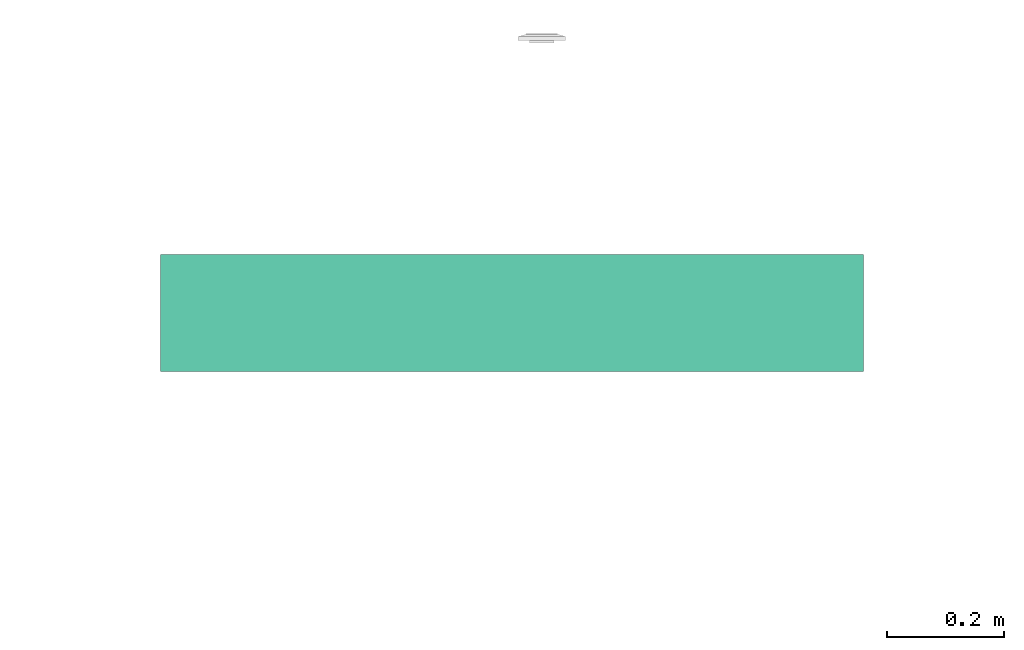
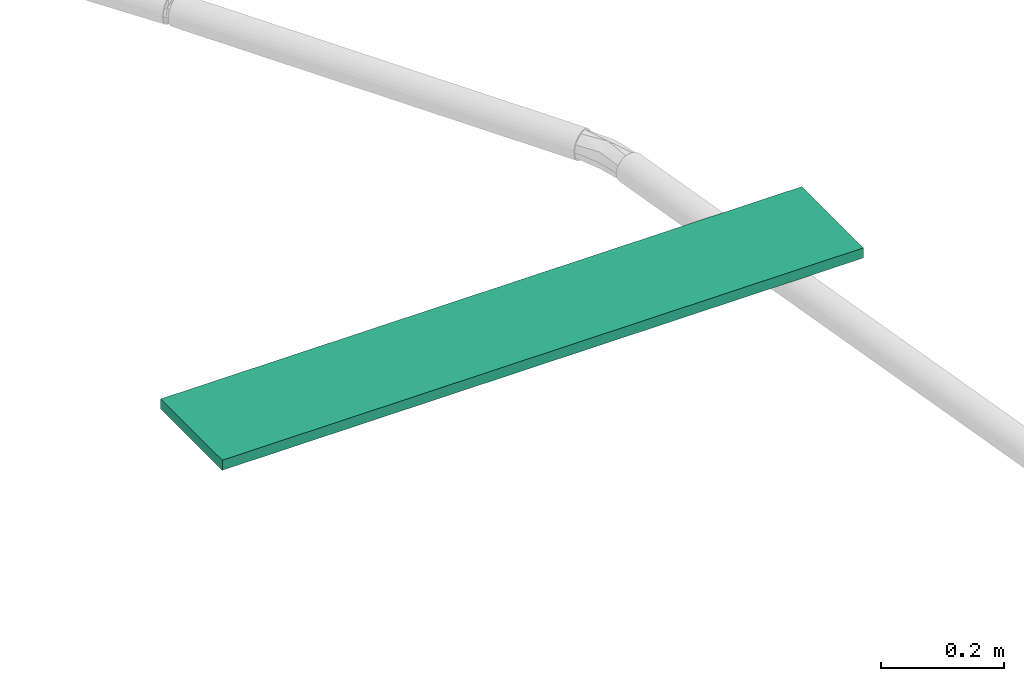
# One storey, part 7 of 153: 1 flow terminal.
"""IFC2X3 building model written with IfcOpenShell, lengths in metres."""

import ifcopenshell
import ifcopenshell.guid

model = None  # the IFC model being written
_history = None  # IfcOwnerHistory: only IFC2X3 demands one
_inside = {}  # id of a spatial element -> (the spatial element, [elements in it])
_under = {}  # id of a project, library or spatial element -> (it, [spatial elements below it])
_declared = {}  # id of a project -> (the project, [libraries it declares])
_typed = {}  # id of a type object -> (the type object, [elements of that type])
_made_of = {}  # id of a material, layer set ... -> (it, [elements and type objects made of it])


def new_model(schema):
    """Start an empty IFC model of exactly this schema.

    Asked for "IFC4X3", IfcOpenShell would pick the latest addendum, in which some entities
    have other attributes; the version numbers below select the first issue.
    IFC2X3 requires an IfcOwnerHistory on every rooted entity: one is made here for all.
    """
    global model, _history
    if schema == "IFC4X3":
        model = ifcopenshell.file(schema_version=(4, 3, 0, 0))
    else:
        model = ifcopenshell.file(schema=schema)
    _inside.clear()
    _under.clear()
    _declared.clear()
    _typed.clear()
    _made_of.clear()
    _history = None
    if model.schema == "IFC2X3":
        org = make("IfcOrganization", Name="unknown")
        user = make(
            "IfcPersonAndOrganization",
            ThePerson=make("IfcPerson", FamilyName="unknown"),
            TheOrganization=org,
        )
        app = make(
            "IfcApplication",
            ApplicationDeveloper=org,
            Version="unknown",
            ApplicationFullName="unknown",
            ApplicationIdentifier="unknown",
        )
        _history = make(
            "IfcOwnerHistory",
            OwningUser=user,
            OwningApplication=app,
            ChangeAction="ADDED",
            CreationDate=0,
        )
    return model


def make(cls, **values):
    """One entity of the class cls with the attributes given. An attribute that is None is left unset."""
    return model.create_entity(
        cls, **{name: value for name, value in values.items() if value is not None}
    )


def entity(cls, *values):
    """Any entity or typed value of the class cls, its attributes in the order of the schema. None: left unset."""
    e = model.create_entity(cls)
    for i, value in enumerate(values):
        if value is not None:
            e[i] = value
    return e


def rooted(cls, **values):
    """An entity with a GlobalId (a new one), such as an element, a storey or a relation."""
    return make(cls, GlobalId=ifcopenshell.guid.new(), OwnerHistory=_history, **values)


def si_unit(unit_type, name, prefix=None):
    """IfcSIUnit, for example si_unit("LENGTHUNIT", "METRE", prefix="MILLI")."""
    return make("IfcSIUnit", UnitType=unit_type, Prefix=prefix, Name=name)


def converted_unit(unit_type, name, factor, base, dimensions=None, offset=None):
    """IfcConversionBasedUnit, such as the inch: factor (a typed value) times the base unit."""
    return make(
        "IfcConversionBasedUnit"
        if offset is None
        else "IfcConversionBasedUnitWithOffset",
        ConversionOffset=offset,
        Dimensions=None
        if dimensions is None
        else entity("IfcDimensionalExponents", *dimensions),
        UnitType=unit_type,
        Name=name,
        ConversionFactor=make(
            "IfcMeasureWithUnit", ValueComponent=factor, UnitComponent=base
        ),
    )


def derived_unit(unit_type, elements):
    """IfcDerivedUnit: a product of units, each with its exponent."""
    return make(
        "IfcDerivedUnit",
        Elements=[
            make("IfcDerivedUnitElement", Unit=unit, Exponent=power)
            for unit, power in elements
        ],
        UnitType=unit_type,
    )


def assignment(units):
    """IfcUnitAssignment: the units of a project."""
    return None if units is None else make("IfcUnitAssignment", Units=units)


def point(xyz):
    """IfcCartesianPoint."""
    return None if xyz is None else make("IfcCartesianPoint", Coordinates=xyz)


def direction(xyz):
    """IfcDirection."""
    return None if xyz is None else make("IfcDirection", DirectionRatios=xyz)


def frame(location, z_axis=None, x_axis=None):
    """IfcAxis2Placement3D, a coordinate frame: its origin and axes. An axis left out is left unset."""
    return make(
        "IfcAxis2Placement3D",
        Location=point(location),
        Axis=direction(z_axis),
        RefDirection=direction(x_axis),
    )


def frame_2d(location, x_axis=None):
    """IfcAxis2Placement2D, a coordinate frame in the plane: its origin and x axis."""
    return make(
        "IfcAxis2Placement2D", Location=point(location), RefDirection=direction(x_axis)
    )


def origin():
    """The frame at (0, 0, 0) with its axes left unset."""
    return frame((0.0, 0.0, 0.0))


def origin_2d_with_axis():
    """The frame at (0, 0) in the plane with the x axis (1, 0) written out."""
    return frame_2d((0.0, 0.0), x_axis=(1.0, 0.0))


def place(relative_to, where):
    """IfcLocalPlacement: puts the frame where relative to a parent placement (None: the world)."""
    return make(
        "IfcLocalPlacement", PlacementRelTo=relative_to, RelativePlacement=where
    )


def context(
    kind, dimensions, precision=None, world=None, true_north=None, identifier=None
):
    """IfcGeometricRepresentationContext, for example the 3D "Model" context."""
    return make(
        "IfcGeometricRepresentationContext",
        ContextIdentifier=identifier,
        ContextType=kind,
        CoordinateSpaceDimension=dimensions,
        Precision=precision,
        WorldCoordinateSystem=world,
        TrueNorth=true_north,
    )


def subcontext(parent, identifier, kind, view, scale=None):
    """IfcGeometricRepresentationSubContext, for example "Body" below "Model"."""
    return make(
        "IfcGeometricRepresentationSubContext",
        ContextIdentifier=identifier,
        ContextType=kind,
        ParentContext=parent,
        TargetScale=scale,
        TargetView=view,
    )


def project(units=None, contexts=None):
    """IfcProject with its units and contexts."""
    return rooted(
        "IfcProject",
        Name="project",
        RepresentationContexts=contexts,
        UnitsInContext=assignment(units),
    )


def spatial(cls, under=None, at=None, **own):
    """A site, building, storey or space (cls), placed at a placement, below another one or the project."""
    s = rooted(cls, ObjectPlacement=at, **own)
    if under is not None:
        _under.setdefault(under.id(), (under, []))[1].append(s)
    return s


def profile(cls, at=None, kind="AREA", **sizes):
    """A parametric profile (cls). Its sizes go by their IFC names, for example OverallWidth=200.0."""
    return make(cls, ProfileType=kind, Position=at, **sizes)


def rectangle(**sizes):
    """IfcRectangleProfileDef."""
    return profile("IfcRectangleProfileDef", **sizes)


def extrude(swept, where, along, depth):
    """IfcExtrudedAreaSolid: the profile swept, set in the frame where, extruded along a direction by depth."""
    return make(
        "IfcExtrudedAreaSolid",
        SweptArea=swept,
        Position=where,
        ExtrudedDirection=direction(along),
        Depth=depth,
    )


def shape(context_of_items, identifier, shape_type, items):
    """IfcShapeRepresentation: the items that make up one representation, for example the "Body"."""
    return make(
        "IfcShapeRepresentation",
        ContextOfItems=context_of_items,
        RepresentationIdentifier=identifier,
        RepresentationType=shape_type,
        Items=items,
    )


def source(mapping_origin, context_of_items, identifier, shape_type, items):
    """IfcRepresentationMap: a shape defined once, which mapped items show again and again."""
    return make(
        "IfcRepresentationMap",
        MappingOrigin=mapping_origin,
        MappedRepresentation=shape(context_of_items, identifier, shape_type, items),
    )


def transform(
    local_origin,
    x_axis=None,
    y_axis=None,
    z_axis=None,
    scale=None,
    scale2=None,
    scale3=None,
    uniform=True,
):
    """IfcCartesianTransformationOperator3D, or its non-uniform kind. x_axis, y_axis, z_axis: its Axis1, 2, 3."""
    if uniform:
        return make(
            "IfcCartesianTransformationOperator3D",
            Axis1=direction(x_axis),
            Axis2=direction(y_axis),
            LocalOrigin=point(local_origin),
            Scale=scale,
            Axis3=direction(z_axis),
        )
    return make(
        "IfcCartesianTransformationOperator3DnonUniform",
        Axis1=direction(x_axis),
        Axis2=direction(y_axis),
        LocalOrigin=point(local_origin),
        Scale=scale,
        Axis3=direction(z_axis),
        Scale2=scale2,
        Scale3=scale3,
    )


def mapped(mapping_source, mapping_target):
    """IfcMappedItem: shows the shape of a source again, moved by a transform."""
    return make(
        "IfcMappedItem", MappingSource=mapping_source, MappingTarget=mapping_target
    )


def made_of(thing, what):
    """Note that an element or type object is made of a material, layer set ...; save() writes the relation."""
    if what is not None:
        _made_of.setdefault(what.id(), (what, []))[1].append(thing)
    return thing


def type_object(cls, material=None, **own):
    """A type object (cls), such as IfcWallType, which elements share."""
    return made_of(rooted(cls, **own), material)


def type_shapes(of_type, sources):
    """Give a type object the sources (RepresentationMaps) that its elements show as mapped items."""
    of_type.RepresentationMaps = sources


def element(
    cls,
    number,
    at=None,
    inside=None,
    cuts=None,
    type_object=None,
    material=None,
    context=None,
    identifier="Body",
    shape_type=None,
    held_by="IfcProductDefinitionShape",
    body=None,
    shapes=None,
    **own,
):
    """One element of the class cls, such as IfcWall. Its Tag is "e" and its number.

    at: its placement. inside: the storey or other place that contains it. cuts: it is an
    opening in that element (IfcRelVoidsElement). A single representation is given by context,
    identifier, shape_type and body (its items); several are given by shapes. held_by: the class
    of the entity that holds the representations. save() writes the other relations.
    """
    e = rooted(cls, Tag="e%d" % number, ObjectPlacement=at, **own)
    if body is not None:
        shapes = [shape(context, identifier, shape_type, body)]
    if shapes is not None:
        e.Representation = make(held_by, Representations=shapes)
    if inside is not None:
        _inside.setdefault(inside.id(), (inside, []))[1].append(e)
    if cuts is not None:
        rooted(
            "IfcRelVoidsElement", RelatingBuildingElement=cuts, RelatedOpeningElement=e
        )
    if type_object is not None:
        _typed.setdefault(type_object.id(), (type_object, []))[1].append(e)
    return made_of(e, material)


def aggregate(whole, parts):
    """IfcRelAggregates: a whole, such as a stair, and the parts it consists of."""
    return rooted("IfcRelAggregates", RelatingObject=whole, RelatedObjects=parts)


def save(model, path):
    """Write the relations noted so far, then the file.

    IfcRelAggregates (storeys below a building ...), IfcRelContainedInSpatialStructure (elements
    in a storey), IfcRelDefinesByType, IfcRelAssociatesMaterial and IfcRelDeclares: one each for
    every whole, place, type object, material and project.
    """
    for whole, parts in _under.values():
        aggregate(whole, parts)
    for where, things in _inside.values():
        rooted(
            "IfcRelContainedInSpatialStructure",
            RelatedElements=things,
            RelatingStructure=where,
        )
    for kind, things in _typed.values():
        rooted("IfcRelDefinesByType", RelatedObjects=things, RelatingType=kind)
    for what, things in _made_of.values():
        rooted("IfcRelAssociatesMaterial", RelatedObjects=things, RelatingMaterial=what)
    for by, libraries in _declared.values():
        rooted("IfcRelDeclares", RelatingContext=by, RelatedDefinitions=libraries)
    model.write(path)


model = new_model("IFC2X3")

# Units and contexts
model_context = context("Model", 3, precision=1e-05, world=origin(), true_north=direction((6.12303176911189e-17, 1.0)))
body_context = subcontext(model_context, "Body", "Model", "MODEL_VIEW")
ifc_project = project(units=[si_unit("LENGTHUNIT", "METRE"), si_unit("AREAUNIT", "SQUARE_METRE"), si_unit("VOLUMEUNIT", "CUBIC_METRE"), converted_unit("PLANEANGLEUNIT", "DEGREE", entity("IfcRatioMeasure", 0.0174532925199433), si_unit("PLANEANGLEUNIT", "RADIAN"), dimensions=[0, 0, 0, 0, 0, 0, 0]), si_unit("MASSUNIT", "GRAM", prefix="KILO"), derived_unit("MASSDENSITYUNIT", [(si_unit("MASSUNIT", "GRAM", prefix="KILO"), 1), (si_unit("LENGTHUNIT", "METRE"), -3)]), si_unit("TIMEUNIT", "SECOND"), si_unit("FREQUENCYUNIT", "HERTZ"), si_unit("THERMODYNAMICTEMPERATUREUNIT", "DEGREE_CELSIUS"), derived_unit("THERMALTRANSMITTANCEUNIT", [(si_unit("MASSUNIT", "GRAM", prefix="KILO"), 1), (si_unit("THERMODYNAMICTEMPERATUREUNIT", "KELVIN"), -1), (si_unit("TIMEUNIT", "SECOND"), -3)]), derived_unit("VOLUMETRICFLOWRATEUNIT", [(si_unit("LENGTHUNIT", "METRE"), 3), (si_unit("TIMEUNIT", "SECOND"), -1)]), si_unit("ELECTRICCURRENTUNIT", "AMPERE"), si_unit("ELECTRICVOLTAGEUNIT", "VOLT"), si_unit("POWERUNIT", "WATT"), si_unit("FORCEUNIT", "NEWTON"), si_unit("ILLUMINANCEUNIT", "LUX"), si_unit("LUMINOUSFLUXUNIT", "LUMEN"), si_unit("LUMINOUSINTENSITYUNIT", "CANDELA"), derived_unit("USERDEFINED", [(si_unit("MASSUNIT", "GRAM", prefix="KILO"), -1), (si_unit("LENGTHUNIT", "METRE"), -2), (si_unit("TIMEUNIT", "SECOND"), 3), (si_unit("LUMINOUSFLUXUNIT", "LUMEN"), 1)]), derived_unit("LINEARVELOCITYUNIT", [(si_unit("LENGTHUNIT", "METRE"), 1), (si_unit("TIMEUNIT", "SECOND"), -1)]), si_unit("PRESSUREUNIT", "PASCAL"), derived_unit("USERDEFINED", [(si_unit("LENGTHUNIT", "METRE"), -2), (si_unit("MASSUNIT", "GRAM", prefix="KILO"), 1), (si_unit("TIMEUNIT", "SECOND"), -2)])], contexts=[model_context])

# Site, building, storey
site_placement = place(None, origin())
site = spatial("IfcSite", under=ifc_project, at=site_placement, Name="Default", CompositionType="ELEMENT")
building_placement = place(site_placement, origin())
building = spatial("IfcBuilding", under=site, at=building_placement, CompositionType="ELEMENT")
storey_placement = place(building_placement, frame((0.0, 0.0, -4.62)))
storey = spatial("IfcBuildingStorey", under=building, at=storey_placement, Name="S02", CompositionType="ELEMENT", Elevation=-4.62)

# Flow terminal
light_fixture_type = type_object("IfcLightFixtureType", Name="B_Réglete étanche", PredefinedType="NOTDEFINED")
shared_shape = source(origin(), body_context, "Body", "SweptSolid", [
    extrude(rectangle(XDim=0.199999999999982, YDim=1.2, at=origin_2d_with_axis()), frame((0.0, 0.0, 0.0), z_axis=(0.0, 0.0, 1.0), x_axis=(0.0, 1.0, 0.0)), (0.0, 0.0, 1.0), 0.02),
])
type_shapes(light_fixture_type, [shared_shape])
flow_terminal_placement = place(storey_placement, frame((35.7817256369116, -185.864296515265, 4.345), z_axis=(0.0, 0.0, -1.0), x_axis=(-1.0, 0.0, 0.0)))
element("IfcFlowTerminal", 1, at=flow_terminal_placement, inside=storey, type_object=light_fixture_type, Name="II_PREF_Type B Réglette étanche:B_Réglete étanche", ObjectType="II_PREF_Type B Réglette étanche:B_Réglete étanche", context=body_context, shape_type="MappedRepresentation", body=[
    mapped(shared_shape, transform((0.0, 0.0, 0.0), scale=1.0)),
])

save(model, "model.ifc")
